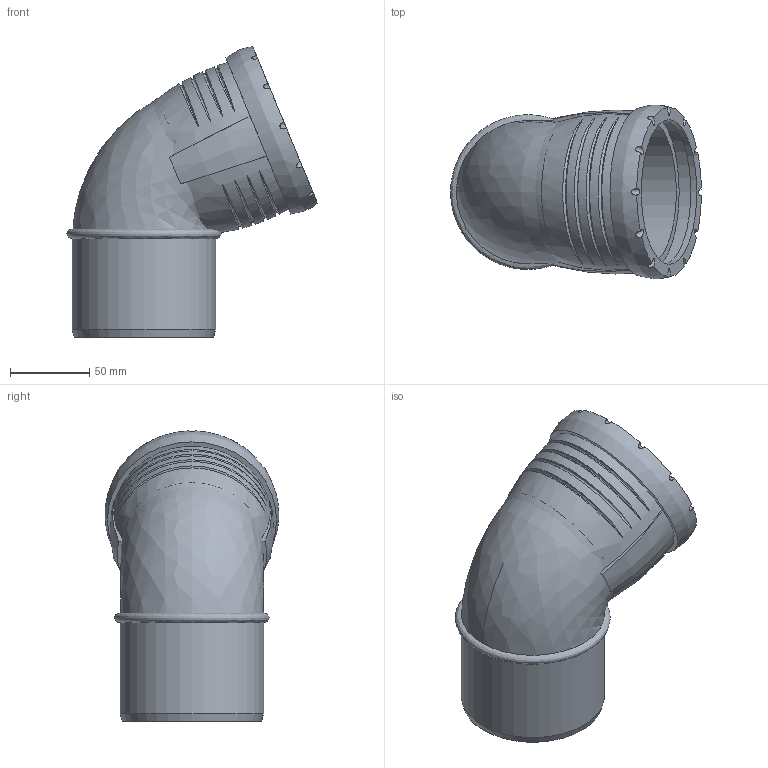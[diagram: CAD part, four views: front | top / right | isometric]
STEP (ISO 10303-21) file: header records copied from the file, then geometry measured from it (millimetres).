
FILE_DESCRIPTION(/* description */ (''),/* implementation_level */ '2;1');
FILE_NAME(/* name */ 'H:\Geberit-Teile\Export\Bogen_TEST\stp\393423.stp',/* time_stamp */ '2017-02-14T10:10:29+01:00',/* author */ ('seihe2'),/* organization */ (''),/* preprocessor_version */ 'ST-DEVELOPER v15.2',/* originating_system */ 'Autodesk Inventor 2014',/* authorisation */ '');
FILE_SCHEMA (('AUTOMOTIVE_DESIGN { 1 0 10303 214 3 1 1 }'));
Length unit declared in the file: millimetre
Products named in the file (1): 393423
Bounding box: 157.87 x 109.47 x 182.72 mm (x, y, z)
Volume: 572713.3 mm3; surface area: 126931.7 mm2
Topology: 2 solids, 2 shells, 56 faces, 136 edges, 95 vertices
Faces by surface type: bspline 24, cylinder 20, plane 10, cone 2
Full cylindrical faces by diameter (mm): 70 x1, 81.6 x1, 90.2 x1, 90.9 x1, 91.2 x1, 100.2 x1
Entity records: 4145 total; most frequent: CARTESIAN_POINT 2898, ORIENTED_EDGE 260, DIRECTION 194, EDGE_CURVE 128, VERTEX_POINT 95, AXIS2_PLACEMENT_3D 95, EDGE_LOOP 78, B_SPLINE_CURVE_WITH_KNOTS 60
